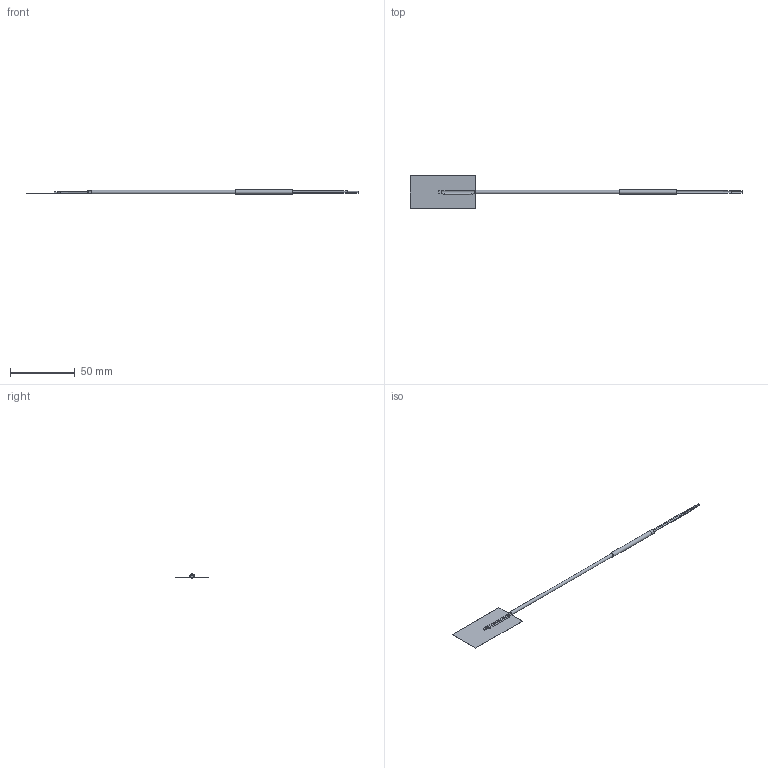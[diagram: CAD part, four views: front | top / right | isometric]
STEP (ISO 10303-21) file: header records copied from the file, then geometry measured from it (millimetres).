
FILE_DESCRIPTION(/* description */ (''),/* implementation_level */ '2;1');
FILE_NAME(/* name */ 'C:\Users\JN\Documents\CAD Drawings\The Sensor Connection\3D\SSP\SSP-RTD-PT100-180-N.stp',/* time_stamp */ '2017-06-15T13:05:25-04:00',/* author */ ('JN'),/* organization */ (''),/* preprocessor_version */ 'ST-DEVELOPER v16.13',/* originating_system */ 'Autodesk Inventor LT',/* authorisation */ '');
FILE_SCHEMA (('AUTOMOTIVE_DESIGN { 1 0 10303 214 3 1 1 }'));
Length unit declared in the file: inch
Products named in the file (1): SSP-RTD-PT100-180-N
Bounding box: 256.12 x 25.4 x 3.48 mm (x, y, z)
Volume: 1267.2 mm3; surface area: 5422.4 mm2
Topology: 15 solids, 15 shells, 59 faces, 89 edges, 56 vertices
Faces by surface type: plane 38, cylinder 17, bspline 3, torus 1
Full cylindrical faces by diameter (mm): 0.508 x5, 1.016 x9, 2.54 x2, 3.48 x1
Entity records: 1294 total; most frequent: CARTESIAN_POINT 236, DIRECTION 217, ORIENTED_EDGE 132, AXIS2_PLACEMENT_3D 95, EDGE_LOOP 76, EDGE_CURVE 66, FACE_OUTER_BOUND 59, ADVANCED_FACE 59
